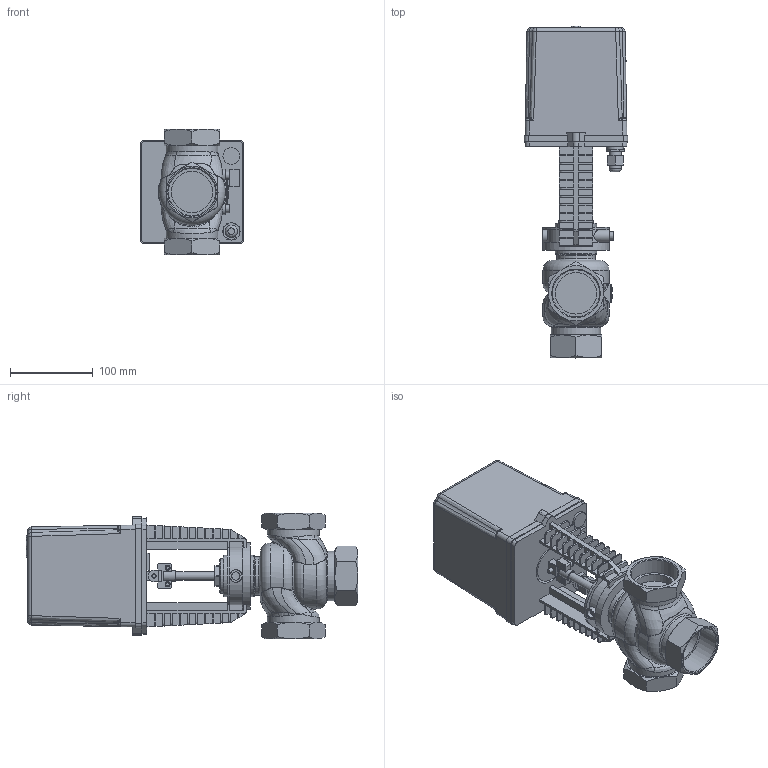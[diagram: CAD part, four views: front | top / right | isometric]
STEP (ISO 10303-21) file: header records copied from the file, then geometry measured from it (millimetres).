
FILE_DESCRIPTION(/* description */ ('D230-11268','CAx-IF Rec.Pracs.---Representation and Presentation of Product Manufacturing Information (PMI)---4.0---2014-10-13'),/* implementation_level */ '2;1');
FILE_NAME(/* name */ '',/* time_stamp */ '2026-04-07T19:59:54+03:00',/* author */ ('DN.RU'),/* organization */ ('DN.RU'),/* preprocessor_version */ 'ST-DEVELOPER v20',/* originating_system */ 'Autodesk Inventor 2025',/* authorisation */ '');
FILE_SCHEMA (('AP242_MANAGED_MODEL_BASED_3D_ENGINEERING_MIM_LF { 1 0 10303 442 1 1 4 }'));
Length unit declared in the file: millimetre
Products named in the file (1): VRg3M/S-31M-PED-T
Bounding box: 125 x 401 x 152 mm (x, y, z)
Volume: 2894483.3 mm3; surface area: 264127.9 mm2
Topology: 1 solids, 3 shells, 1099 faces, 2932 edges, 1876 vertices
Faces by surface type: plane 582, bspline 218, cylinder 174, cone 66, torus 41, sphere 18
Full cylindrical faces by diameter (mm): 5 x4, 6 x2, 8 x3, 8.5 x2, 10 x6, 13 x1, 15 x4, 18 x1, 20 x1, 42 x1, 44 x1, 45 x1, 46 x1, 50 x6, 55 x2, 56.66 x3, 60 x1, 62.66 x2, 80 x1
Entity records: 40408 total; most frequent: CARTESIAN_POINT 13174, ORIENTED_EDGE 5828, DIRECTION 4793, EDGE_CURVE 2914, VERTEX_POINT 1876, LINE 1677, VECTOR 1677, AXIS2_PLACEMENT_3D 1558
